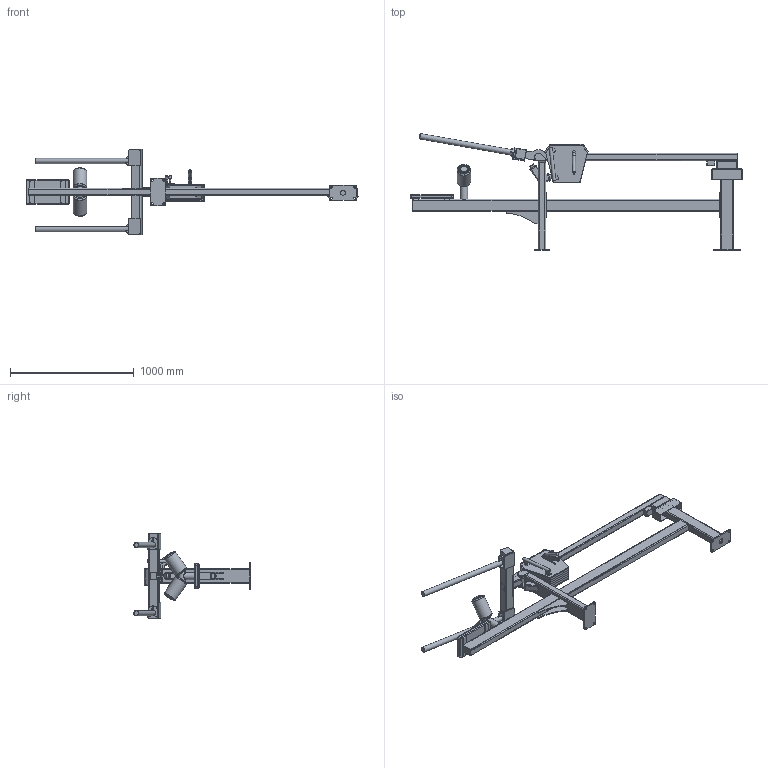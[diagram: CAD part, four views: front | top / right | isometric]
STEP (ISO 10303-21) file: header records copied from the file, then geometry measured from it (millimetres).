
FILE_DESCRIPTION(/* description */ (''),/* implementation_level */ '2;1');
FILE_NAME(/* name */ 'OG85_3D_Low.step',/* time_stamp */ '2025-11-11T16:07:08+02:00',/* author */ (''),/* organization */ (''),/* preprocessor_version */ 'ST-DEVELOPER v20.1',/* originating_system */ 'Autodesk Translation Framework v14.21.0.0',/* authorisation */ '');
FILE_SCHEMA (('AUTOMOTIVE_DESIGN { 1 0 10303 214 3 1 1 }'));
Length unit declared in the file: millimetre
Products named in the file (1): OG85_3D_Low
Bounding box: 2678 x 940.98 x 686 mm (x, y, z)
Volume: 22529473.9 mm3; surface area: 6319342.7 mm2
Topology: 78 solids, 80 shells, 1041 faces, 2498 edges, 1613 vertices
Faces by surface type: plane 585, cylinder 400, torus 23, bspline 18, sphere 8, cone 7
Full cylindrical faces by diameter (mm): 6.8 x12, 7 x5, 8.5 x12, 10 x3, 10.124 x7, 11.8 x1, 13 x16, 15 x8, 18 x4, 24.96 x2, 25 x5, 36 x2, 38 x1, 40 x3, 42 x2, 42.4 x2, 53.9 x1, 55 x2, 57 x4, 60 x2, 60.3 x3, 62 x1, 110 x2
Entity records: 36022 total; most frequent: CARTESIAN_POINT 11135, DIRECTION 5179, ORIENTED_EDGE 4980, EDGE_CURVE 2490, AXIS2_PLACEMENT_3D 1798, VERTEX_POINT 1613, LINE 1583, VECTOR 1583
